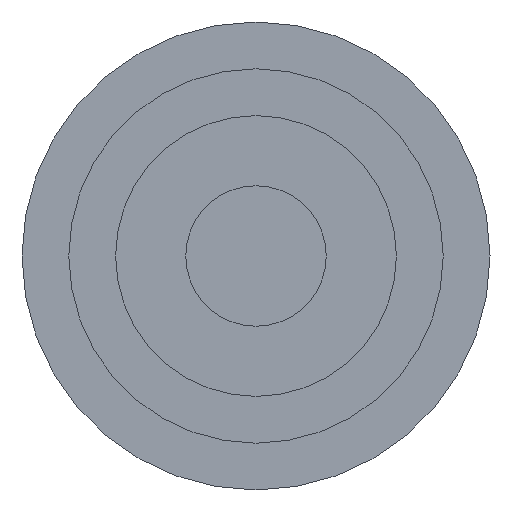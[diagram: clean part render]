
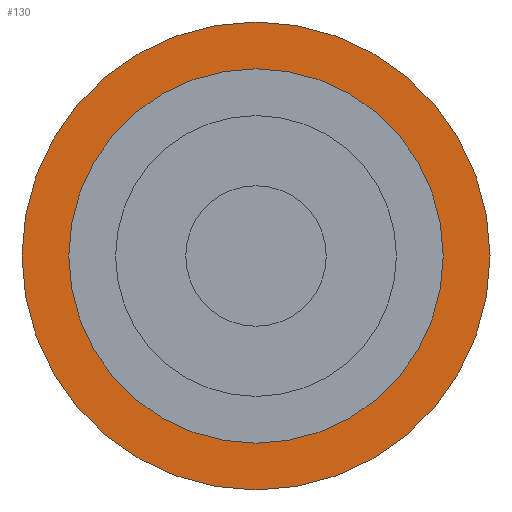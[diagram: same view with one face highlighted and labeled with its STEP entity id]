
A CAD part, front view. The second image highlights one B-rep face of the part: STEP entity #130.
In plain terms, the highlighted planar face has unit normal (0, -1, 0).
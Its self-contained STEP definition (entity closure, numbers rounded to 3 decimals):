
#41=ORIENTED_EDGE('',*,*,#54,.T.);
#42=ORIENTED_EDGE('',*,*,#53,.F.);
#53=EDGE_CURVE('',#63,#63,#73,.T.);
#54=EDGE_CURVE('',#64,#64,#74,.T.);
#63=VERTEX_POINT('',#239);
#64=VERTEX_POINT('',#242);
#73=CIRCLE('',#164,4.);
#74=CIRCLE('',#166,3.2);
#91=EDGE_LOOP('',(#41));
#92=EDGE_LOOP('',(#42));
#111=FACE_BOUND('',#91,.T.);
#112=FACE_BOUND('',#92,.T.);
#120=PLANE('',#165);
#130=ADVANCED_FACE('',(#111,#112),#120,.T.);
#164=AXIS2_PLACEMENT_3D('',#238,#204,#205);
#165=AXIS2_PLACEMENT_3D('',#240,#206,#207);
#166=AXIS2_PLACEMENT_3D('',#241,#208,#209);
#204=DIRECTION('',(0.,1.,0.));
#205=DIRECTION('',(-1.,0.,0.));
#206=DIRECTION('',(0.,-1.,0.));
#207=DIRECTION('',(1.,0.,0.));
#208=DIRECTION('',(0.,1.,0.));
#209=DIRECTION('',(-1.,0.,0.));
#238=CARTESIAN_POINT('',(0.,1.6,0.));
#239=CARTESIAN_POINT('',(-4.,1.6,0.));
#240=CARTESIAN_POINT('',(3.2,1.6,0.));
#241=CARTESIAN_POINT('',(0.,1.6,0.));
#242=CARTESIAN_POINT('',(-3.2,1.6,0.));
